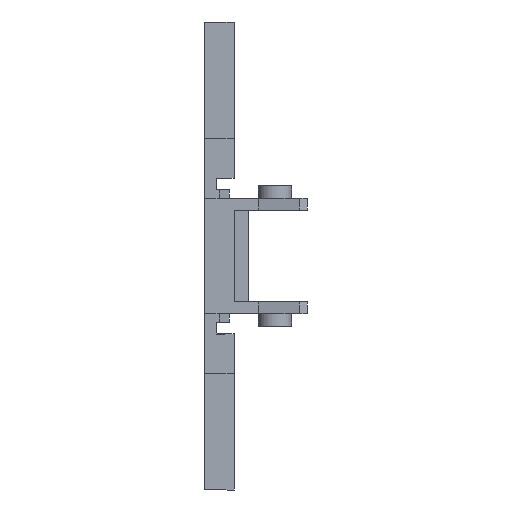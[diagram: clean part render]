
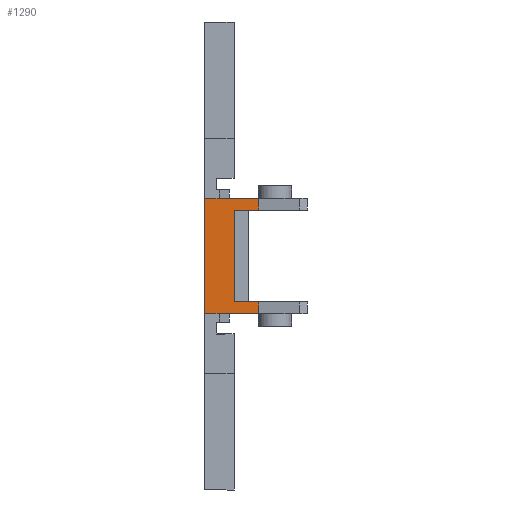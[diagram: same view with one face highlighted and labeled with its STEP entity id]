
A CAD part, front view. The second image highlights one B-rep face of the part: STEP entity #1290.
In plain terms, the highlighted planar face has unit normal (0, -1, 0).
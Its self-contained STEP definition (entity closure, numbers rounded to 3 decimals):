
#125 = EDGE_CURVE ( 'NONE', #2651, #2556, #3295, .T. ) ;
#205 = EDGE_CURVE ( 'NONE', #2653, #2625, #3390, .T. ) ;
#228 = EDGE_CURVE ( 'NONE', #2588, #2772, #3419, .T. ) ;
#290 = EDGE_CURVE ( 'NONE', #2556, #2660, #841, .T. ) ;
#337 = EDGE_CURVE ( 'NONE', #2651, #2772, #894, .T. ) ;
#354 = AXIS2_PLACEMENT_3D ( 'NONE', #2156, #2177, #2178 ) ;
#841 = LINE ( 'NONE', #1694, #842 ) ;
#842 = VECTOR ( 'NONE', #1695, 1000. ) ;
#894 = LINE ( 'NONE', #1757, #895 ) ;
#895 = VECTOR ( 'NONE', #1758, 1000. ) ;
#1101 = FACE_OUTER_BOUND ( 'NONE', #3057, .T. ) ;
#1146 = LINE ( 'NONE', #2494, #1156 ) ;
#1156 = VECTOR ( 'NONE', #2496, 1000. ) ;
#1162 = LINE ( 'NONE', #2501, #1163 ) ;
#1163 = VECTOR ( 'NONE', #2502, 1000. ) ;
#1175 = LINE ( 'NONE', #2519, #1176 ) ;
#1176 = VECTOR ( 'NONE', #2520, 1000. ) ;
#1290 = ADVANCED_FACE ( 'NONE', ( #1101 ), #2170, .T. ) ;
#1455 = CARTESIAN_POINT ( 'NONE',  ( 10.5, -16.55, 5.9 ) ) ;
#1456 = DIRECTION ( 'NONE',  ( -1., 0., 0. ) ) ;
#1569 = CARTESIAN_POINT ( 'NONE',  ( 5.523, -16.55, 67.733 ) ) ;
#1570 = DIRECTION ( 'NONE',  ( 0., 0., -1. ) ) ;
#1604 = CARTESIAN_POINT ( 'NONE',  ( 10.5, -16.55, 4.7 ) ) ;
#1605 = DIRECTION ( 'NONE',  ( 1., 0., 0. ) ) ;
#1694 = CARTESIAN_POINT ( 'NONE',  ( 0., -16.55, 15.37 ) ) ;
#1695 = DIRECTION ( 'NONE',  ( 0., 0., -1. ) ) ;
#1757 = CARTESIAN_POINT ( 'NONE',  ( 5.523, -16.55, 67.733 ) ) ;
#1758 = DIRECTION ( 'NONE',  ( 0., 0., -1. ) ) ;
#2156 = CARTESIAN_POINT ( 'NONE',  ( 10.5, -16.55, -5.9 ) ) ;
#2170 = PLANE ( 'NONE',  #354 ) ;
#2177 = DIRECTION ( 'NONE',  ( 0., -1., 0. ) ) ;
#2178 = DIRECTION ( 'NONE',  ( -1., 0., 0. ) ) ;
#2274 = CARTESIAN_POINT ( 'NONE',  ( 0., -16.55, 5.9 ) ) ;
#2303 = CARTESIAN_POINT ( 'NONE',  ( 3., -16.55, 4.7 ) ) ;
#2339 = CARTESIAN_POINT ( 'NONE',  ( 5.523, -16.55, -5.9 ) ) ;
#2353 = CARTESIAN_POINT ( 'NONE',  ( 3., -16.55, -4.7 ) ) ;
#2364 = CARTESIAN_POINT ( 'NONE',  ( 5.523, -16.55, 5.9 ) ) ;
#2366 = CARTESIAN_POINT ( 'NONE',  ( 5.523, -16.55, -4.7 ) ) ;
#2373 = CARTESIAN_POINT ( 'NONE',  ( 0., -16.55, -5.9 ) ) ;
#2464 = CARTESIAN_POINT ( 'NONE',  ( 5.523, -16.55, 4.7 ) ) ;
#2494 = CARTESIAN_POINT ( 'NONE',  ( 1.5, -16.55, -5.9 ) ) ;
#2496 = DIRECTION ( 'NONE',  ( 1., 0., 0. ) ) ;
#2501 = CARTESIAN_POINT ( 'NONE',  ( 10.5, -16.55, -4.7 ) ) ;
#2502 = DIRECTION ( 'NONE',  ( 1., 0., 0. ) ) ;
#2519 = CARTESIAN_POINT ( 'NONE',  ( 3., -16.55, -5.9 ) ) ;
#2520 = DIRECTION ( 'NONE',  ( 0., 0., -1. ) ) ;
#2556 = VERTEX_POINT ( 'NONE', #2274 ) ;
#2588 = VERTEX_POINT ( 'NONE', #2303 ) ;
#2625 = VERTEX_POINT ( 'NONE', #2339 ) ;
#2640 = VERTEX_POINT ( 'NONE', #2353 ) ;
#2651 = VERTEX_POINT ( 'NONE', #2364 ) ;
#2653 = VERTEX_POINT ( 'NONE', #2366 ) ;
#2660 = VERTEX_POINT ( 'NONE', #2373 ) ;
#2772 = VERTEX_POINT ( 'NONE', #2464 ) ;
#3008 = ORIENTED_EDGE ( 'NONE', *, *, #3477, .F. ) ;
#3009 = ORIENTED_EDGE ( 'NONE', *, *, #205, .F. ) ;
#3010 = ORIENTED_EDGE ( 'NONE', *, *, #3472, .T. ) ;
#3011 = ORIENTED_EDGE ( 'NONE', *, *, #290, .T. ) ;
#3012 = ORIENTED_EDGE ( 'NONE', *, *, #125, .T. ) ;
#3013 = ORIENTED_EDGE ( 'NONE', *, *, #337, .F. ) ;
#3014 = ORIENTED_EDGE ( 'NONE', *, *, #228, .T. ) ;
#3015 = ORIENTED_EDGE ( 'NONE', *, *, #3488, .F. ) ;
#3057 = EDGE_LOOP ( 'NONE', ( #3015, #3014, #3013, #3012, #3011, #3010, #3009, #3008 ) ) ;
#3295 = LINE ( 'NONE', #1455, #3296 ) ;
#3296 = VECTOR ( 'NONE', #1456, 1000. ) ;
#3390 = LINE ( 'NONE', #1569, #3391 ) ;
#3391 = VECTOR ( 'NONE', #1570, 1000. ) ;
#3419 = LINE ( 'NONE', #1604, #3420 ) ;
#3420 = VECTOR ( 'NONE', #1605, 1000. ) ;
#3472 = EDGE_CURVE ( 'NONE', #2660, #2625, #1146, .T. ) ;
#3477 = EDGE_CURVE ( 'NONE', #2640, #2653, #1162, .T. ) ;
#3488 = EDGE_CURVE ( 'NONE', #2588, #2640, #1175, .T. ) ;
